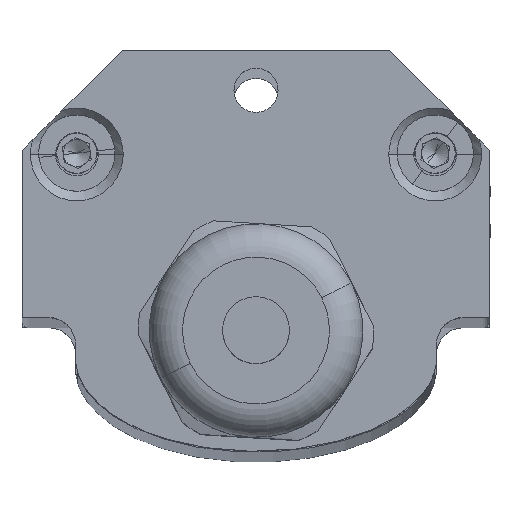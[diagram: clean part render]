
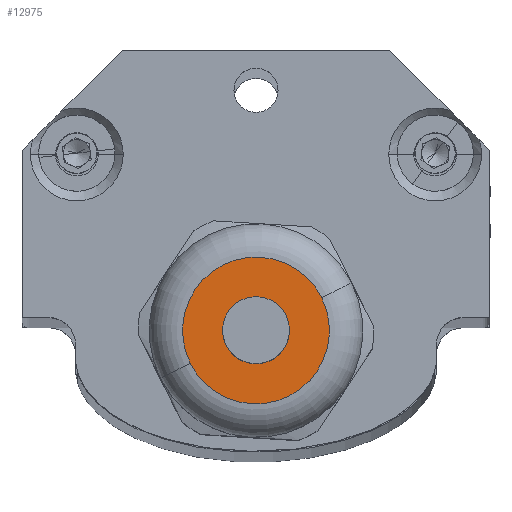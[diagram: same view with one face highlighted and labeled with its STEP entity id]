
A CAD part, top view. The second image highlights one B-rep face of the part: STEP entity #12975.
In plain terms, the highlighted planar face has unit normal (0, 0, 1) as drawn and (1, 0, 0) by its records, which use the part's own axes.
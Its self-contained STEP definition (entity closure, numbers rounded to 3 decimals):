
#113 = DIRECTION ( 'NONE',  ( 0., 0., -1. ) ) ;
#330 = CARTESIAN_POINT ( 'NONE',  ( 26.5, 0., 0. ) ) ;
#1500 = CIRCLE ( 'NONE', #13622, 1.75 ) ;
#1617 = CARTESIAN_POINT ( 'NONE',  ( 26.5, 0., -5.49 ) ) ;
#1739 = DIRECTION ( 'NONE',  ( 1., 0., 0. ) ) ;
#1964 = EDGE_CURVE ( 'NONE', #12470, #3971, #12558, .T. ) ;
#2208 = CARTESIAN_POINT ( 'NONE',  ( 26.5, 0., -1.75 ) ) ;
#2659 = ORIENTED_EDGE ( 'NONE', *, *, #1964, .T. ) ;
#3728 = AXIS2_PLACEMENT_3D ( 'NONE', #6029, #1739, #5063 ) ;
#3742 = CARTESIAN_POINT ( 'NONE',  ( 26.5, 0., 1.75 ) ) ;
#3746 = EDGE_LOOP ( 'NONE', ( #2659, #12915 ) ) ;
#3971 = VERTEX_POINT ( 'NONE', #4964 ) ;
#4473 = ORIENTED_EDGE ( 'NONE', *, *, #13383, .F. ) ;
#4964 = CARTESIAN_POINT ( 'NONE',  ( 26.5, 0., 5.49 ) ) ;
#5063 = DIRECTION ( 'NONE',  ( 0., 0., -1. ) ) ;
#5182 = EDGE_CURVE ( 'NONE', #3971, #12470, #6012, .T. ) ;
#5252 = FACE_OUTER_BOUND ( 'NONE', #3746, .T. ) ;
#5663 = DIRECTION ( 'NONE',  ( 1., 0., 0. ) ) ;
#5801 = ORIENTED_EDGE ( 'NONE', *, *, #10984, .F. ) ;
#6012 = CIRCLE ( 'NONE', #10025, 5.49 ) ;
#6029 = CARTESIAN_POINT ( 'NONE',  ( 26.5, 0., 0. ) ) ;
#6088 = DIRECTION ( 'NONE',  ( 0., 1., 0. ) ) ;
#6163 = PLANE ( 'NONE',  #12349 ) ;
#6281 = VERTEX_POINT ( 'NONE', #3742 ) ;
#6482 = DIRECTION ( 'NONE',  ( 0., 0., -1. ) ) ;
#7526 = EDGE_LOOP ( 'NONE', ( #5801, #4473 ) ) ;
#8376 = FACE_BOUND ( 'NONE', #7526, .T. ) ;
#8720 = DIRECTION ( 'NONE',  ( 1., 0., 0. ) ) ;
#8925 = DIRECTION ( 'NONE',  ( 0., 0., -1. ) ) ;
#9539 = DIRECTION ( 'NONE',  ( 1., 0., 0. ) ) ;
#9967 = AXIS2_PLACEMENT_3D ( 'NONE', #12828, #9539, #6482 ) ;
#10025 = AXIS2_PLACEMENT_3D ( 'NONE', #10521, #8720, #113 ) ;
#10521 = CARTESIAN_POINT ( 'NONE',  ( 26.5, 0., 0. ) ) ;
#10523 = CARTESIAN_POINT ( 'NONE',  ( 26.5, 1.75, 0. ) ) ;
#10984 = EDGE_CURVE ( 'NONE', #11562, #6281, #1500, .T. ) ;
#11562 = VERTEX_POINT ( 'NONE', #2208 ) ;
#12349 = AXIS2_PLACEMENT_3D ( 'NONE', #10523, #13474, #6088 ) ;
#12470 = VERTEX_POINT ( 'NONE', #1617 ) ;
#12558 = CIRCLE ( 'NONE', #3728, 5.49 ) ;
#12828 = CARTESIAN_POINT ( 'NONE',  ( 26.5, 0., 0. ) ) ;
#12915 = ORIENTED_EDGE ( 'NONE', *, *, #5182, .T. ) ;
#12975 = ADVANCED_FACE ( 'NONE', ( #5252, #8376 ), #6163, .T. ) ;
#13383 = EDGE_CURVE ( 'NONE', #6281, #11562, #13452, .T. ) ;
#13452 = CIRCLE ( 'NONE', #9967, 1.75 ) ;
#13474 = DIRECTION ( 'NONE',  ( 1., 0., 0. ) ) ;
#13622 = AXIS2_PLACEMENT_3D ( 'NONE', #330, #5663, #8925 ) ;
